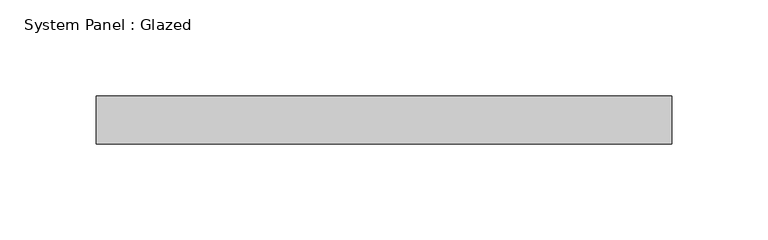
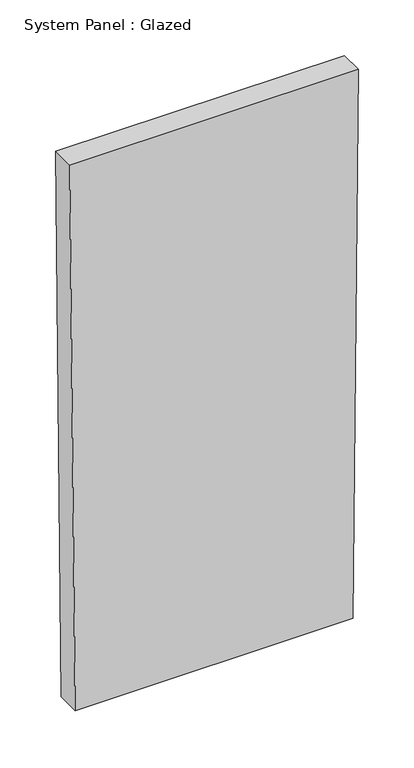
"""IFC4 building model written with IfcOpenShell, lengths in millimetres: plate geometry, System Panel : Glazed."""

from ifc_helpers import new_model, si_unit, frame, origin, place, context, project, spatial, polyline, outline, extrude, source, transform, mapped, element, save


def system_panel_glazed_4d6f9d44(model_context):
    return source(origin(), model_context, "Body", "SweptSolid", [
        extrude(outline(polyline([(0.0, -144.2593845), (0.0, 144.2593845), (599.9733221, 149.9173722), (599.9733221, -149.9173722), (0.0, -144.2593845)])), frame((0.0, 24.5, 0.0), z_axis=(0.0, 1.0, 0.0), x_axis=(0.0, 0.0, 1.0)), (0.0, 0.0, 1.0), 25.0),
    ])


if __name__ == "__main__":
    model = new_model("IFC4")
    model_context = context("Model", 3, world=origin())
    ifc_project = project(units=[si_unit("LENGTHUNIT", "METRE", prefix="MILLI")], contexts=[model_context])
    site = spatial("IfcSite", under=ifc_project)
    building = spatial("IfcBuilding", under=site)
    placement = place(None, origin())
    system_panel_glazed_shape = system_panel_glazed_4d6f9d44(model_context)
    element("IfcPlate", 1, ObjectType="System Panel : Glazed", at=placement, inside=building, context=model_context, shape_type="MappedRepresentation", body=[
        mapped(system_panel_glazed_shape, transform((0.0, 0.0, 0.0), x_axis=(1.0, 0.0, 0.0), y_axis=(0.0, 1.0, 0.0), z_axis=(0.0, 0.0, 1.0))),
    ])
    save(model, "model.ifc")
